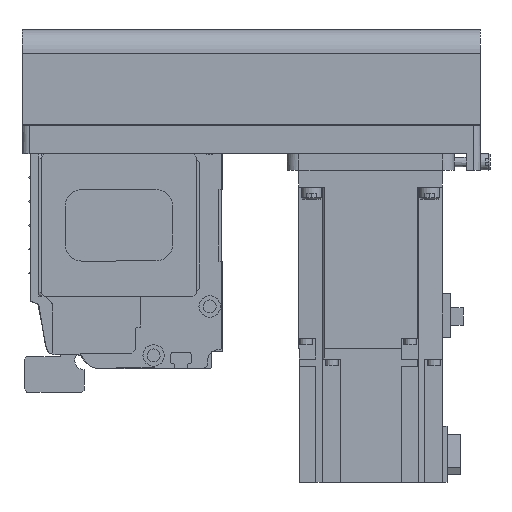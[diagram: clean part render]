
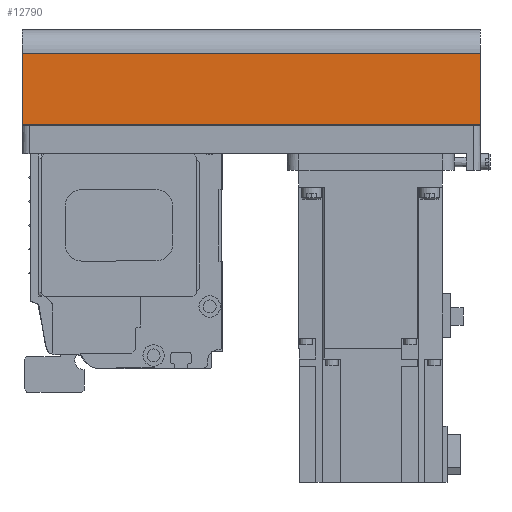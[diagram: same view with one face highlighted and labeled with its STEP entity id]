
A CAD part, left-side view. The second image highlights one B-rep face of the part: STEP entity #12790.
In plain terms, the highlighted planar face has unit normal (-1, 0, 0) as drawn and (0, -1, 0) by its records, which use the part's own axes.
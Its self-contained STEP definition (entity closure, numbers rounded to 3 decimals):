
#2299=ORIENTED_EDGE('',*,*,#5171,.F.);
#2300=ORIENTED_EDGE('',*,*,#5137,.F.);
#2301=ORIENTED_EDGE('',*,*,#5160,.T.);
#2302=ORIENTED_EDGE('',*,*,#5204,.T.);
#5137=EDGE_CURVE('',#6739,#6740,#8027,.T.);
#5160=EDGE_CURVE('',#6739,#6758,#8046,.T.);
#5171=EDGE_CURVE('',#6740,#6766,#8055,.T.);
#5204=EDGE_CURVE('',#6758,#6766,#8068,.T.);
#6739=VERTEX_POINT('',#19981);
#6740=VERTEX_POINT('',#19983);
#6758=VERTEX_POINT('',#20026);
#6766=VERTEX_POINT('',#20050);
#8027=LINE('',#19982,#9255);
#8046=LINE('',#20027,#9274);
#8055=LINE('',#20049,#9283);
#8068=LINE('',#20107,#9296);
#9255=VECTOR('',#16028,1000.);
#9274=VECTOR('',#16061,1000.);
#9283=VECTOR('',#16082,1000.);
#9296=VECTOR('',#16167,1000.);
#10352=EDGE_LOOP('',(#2299,#2300,#2301,#2302));
#11366=FACE_BOUND('',#10352,.T.);
#12211=PLANE('',#13797);
#12790=ADVANCED_FACE('',(#11366),#12211,.T.);
#13797=AXIS2_PLACEMENT_3D('',#20108,#16168,#16169);
#16028=DIRECTION('',(1.,0.,0.));
#16061=DIRECTION('',(0.,0.,-1.));
#16082=DIRECTION('',(0.,0.,-1.));
#16167=DIRECTION('',(1.,0.,0.));
#16168=DIRECTION('',(0.,-1.,0.));
#16169=DIRECTION('',(0.,0.,-1.));
#19981=CARTESIAN_POINT('',(-192.,-40.,-12.1));
#19982=CARTESIAN_POINT('',(-192.,-40.,-12.1));
#19983=CARTESIAN_POINT('',(0.,-40.,-12.1));
#20026=CARTESIAN_POINT('',(-192.,-40.,-42.));
#20027=CARTESIAN_POINT('',(-192.,-40.,-12.1));
#20049=CARTESIAN_POINT('',(0.,-40.,-12.1));
#20050=CARTESIAN_POINT('',(0.,-40.,-42.));
#20107=CARTESIAN_POINT('',(-192.,-40.,-42.));
#20108=CARTESIAN_POINT('',(-192.,-40.,-12.1));
